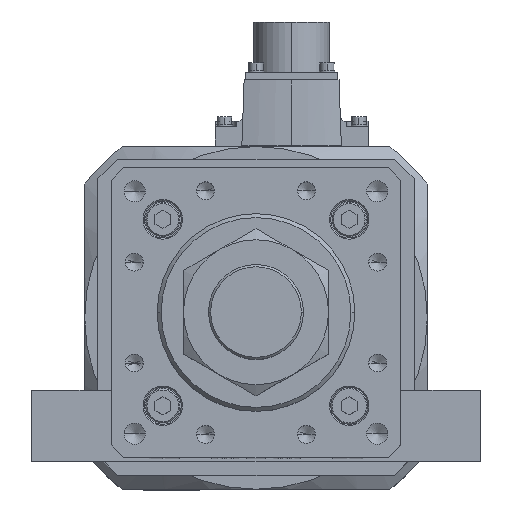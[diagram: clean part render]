
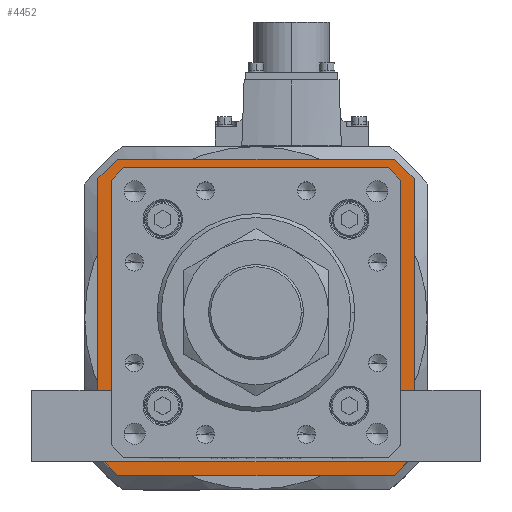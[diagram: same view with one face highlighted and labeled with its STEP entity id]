
A CAD part, top view. The second image highlights one B-rep face of the part: STEP entity #4452.
In plain terms, the highlighted planar face has unit normal (0, 0, 1).
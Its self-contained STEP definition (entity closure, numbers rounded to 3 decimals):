
#95 = LINE ( 'NONE', #4772, #30578 ) ;
#465 = LINE ( 'NONE', #25868, #29105 ) ;
#637 = DIRECTION ( 'NONE',  ( -1., 0., 0. ) ) ;
#719 = CARTESIAN_POINT ( 'NONE',  ( 53.5, -49.593, -119. ) ) ;
#970 = ORIENTED_EDGE ( 'NONE', *, *, #3680, .F. ) ;
#1253 = ORIENTED_EDGE ( 'NONE', *, *, #2673, .T. ) ;
#1300 = CARTESIAN_POINT ( 'NONE',  ( -60., 52.5, -119. ) ) ;
#1650 = LINE ( 'NONE', #37508, #6266 ) ;
#2039 = CARTESIAN_POINT ( 'NONE',  ( 49.446, -53.646, -119. ) ) ;
#2290 = CARTESIAN_POINT ( 'NONE',  ( 0., 0., -119. ) ) ;
#2322 = VERTEX_POINT ( 'NONE', #21210 ) ;
#2409 = PLANE ( 'NONE',  #12387 ) ;
#2529 = CARTESIAN_POINT ( 'NONE',  ( -53.5, -49.593, -119. ) ) ;
#2673 = EDGE_CURVE ( 'NONE', #22173, #32790, #23892, .T. ) ;
#2681 = LINE ( 'NONE', #26841, #12835 ) ;
#2816 = LINE ( 'NONE', #14696, #31970 ) ;
#3165 = CARTESIAN_POINT ( 'NONE',  ( 60., -52.5, -119. ) ) ;
#3339 = CARTESIAN_POINT ( 'NONE',  ( -49.8, -53.5, -119. ) ) ;
#3601 = CARTESIAN_POINT ( 'NONE',  ( -60., -52.5, -119. ) ) ;
#3680 = EDGE_CURVE ( 'NONE', #28744, #13534, #25666, .T. ) ;
#4452 = ADVANCED_FACE ( 'NONE', ( #24660, #28383 ), #2409, .T. ) ;
#4772 = CARTESIAN_POINT ( 'NONE',  ( -53.5, 49.8, -119. ) ) ;
#5198 = DIRECTION ( 'NONE',  ( 0., 1., 0. ) ) ;
#5269 = VECTOR ( 'NONE', #33253, 1000. ) ;
#5345 = LINE ( 'NONE', #2039, #29814 ) ;
#6266 = VECTOR ( 'NONE', #5198, 1000. ) ;
#6370 = CARTESIAN_POINT ( 'NONE',  ( 52.5, -60., -119. ) ) ;
#6378 = VECTOR ( 'NONE', #13907, 1000. ) ;
#6887 = LINE ( 'NONE', #13137, #18480 ) ;
#6957 = VECTOR ( 'NONE', #26576, 1000. ) ;
#7011 = EDGE_CURVE ( 'NONE', #2322, #22392, #6887, .T. ) ;
#7339 = CARTESIAN_POINT ( 'NONE',  ( 60., 52.5, -119. ) ) ;
#7496 = VERTEX_POINT ( 'NONE', #27701 ) ;
#7748 = DIRECTION ( 'NONE',  ( 0., 1., 0. ) ) ;
#7803 = EDGE_CURVE ( 'NONE', #33825, #28744, #8716, .T. ) ;
#8299 = CARTESIAN_POINT ( 'NONE',  ( -52.5, 60., -119. ) ) ;
#8507 = VECTOR ( 'NONE', #30615, 1000. ) ;
#8716 = LINE ( 'NONE', #26512, #36932 ) ;
#8774 = EDGE_CURVE ( 'NONE', #20878, #7496, #5345, .T. ) ;
#8915 = DIRECTION ( 'NONE',  ( -0.707, -0.707, 0. ) ) ;
#10215 = ORIENTED_EDGE ( 'NONE', *, *, #15297, .T. ) ;
#10273 = DIRECTION ( 'NONE',  ( 0.707, 0.707, 0. ) ) ;
#10594 = ORIENTED_EDGE ( 'NONE', *, *, #35888, .F. ) ;
#10843 = LINE ( 'NONE', #8299, #20073 ) ;
#10960 = DIRECTION ( 'NONE',  ( 1., 0., 0. ) ) ;
#11167 = VERTEX_POINT ( 'NONE', #34794 ) ;
#11280 = VERTEX_POINT ( 'NONE', #3601 ) ;
#11597 = EDGE_LOOP ( 'NONE', ( #10594, #21893, #32273, #36420, #970, #23785, #18874, #34530 ) ) ;
#11948 = LINE ( 'NONE', #24629, #6378 ) ;
#12387 = AXIS2_PLACEMENT_3D ( 'NONE', #2290, #22969, #10960 ) ;
#12710 = CARTESIAN_POINT ( 'NONE',  ( 53.5, -49.8, -119. ) ) ;
#12835 = VECTOR ( 'NONE', #20863, 1000. ) ;
#12951 = LINE ( 'NONE', #3339, #32372 ) ;
#13137 = CARTESIAN_POINT ( 'NONE',  ( -49.446, 53.646, -119. ) ) ;
#13534 = VERTEX_POINT ( 'NONE', #32369 ) ;
#13907 = DIRECTION ( 'NONE',  ( 1., 0., 0. ) ) ;
#14113 = CARTESIAN_POINT ( 'NONE',  ( -53.646, -49.446, -119. ) ) ;
#14696 = CARTESIAN_POINT ( 'NONE',  ( -52.5, -60., -119. ) ) ;
#15195 = EDGE_CURVE ( 'NONE', #13534, #11280, #2816, .T. ) ;
#15297 = EDGE_CURVE ( 'NONE', #22392, #36654, #29166, .T. ) ;
#15932 = LINE ( 'NONE', #12710, #5269 ) ;
#16399 = DIRECTION ( 'NONE',  ( -0.707, -0.707, 0. ) ) ;
#18202 = ORIENTED_EDGE ( 'NONE', *, *, #8774, .T. ) ;
#18355 = EDGE_CURVE ( 'NONE', #11280, #32036, #1650, .T. ) ;
#18480 = VECTOR ( 'NONE', #10273, 1000. ) ;
#18874 = ORIENTED_EDGE ( 'NONE', *, *, #22989, .F. ) ;
#18879 = CARTESIAN_POINT ( 'NONE',  ( 52.5, -60., -119. ) ) ;
#19421 = EDGE_LOOP ( 'NONE', ( #10215, #32812, #27403, #18202, #34251, #1253, #21699, #19586 ) ) ;
#19586 = ORIENTED_EDGE ( 'NONE', *, *, #7011, .T. ) ;
#20073 = VECTOR ( 'NONE', #31600, 1000. ) ;
#20863 = DIRECTION ( 'NONE',  ( 0., -1., 0. ) ) ;
#20878 = VERTEX_POINT ( 'NONE', #719 ) ;
#21077 = VERTEX_POINT ( 'NONE', #28227 ) ;
#21210 = CARTESIAN_POINT ( 'NONE',  ( -53.5, 49.593, -119. ) ) ;
#21686 = EDGE_CURVE ( 'NONE', #32790, #2322, #95, .T. ) ;
#21699 = ORIENTED_EDGE ( 'NONE', *, *, #21686, .T. ) ;
#21893 = ORIENTED_EDGE ( 'NONE', *, *, #38148, .F. ) ;
#22173 = VERTEX_POINT ( 'NONE', #31540 ) ;
#22392 = VERTEX_POINT ( 'NONE', #25845 ) ;
#22969 = DIRECTION ( 'NONE',  ( 0., 0., 1. ) ) ;
#22989 = EDGE_CURVE ( 'NONE', #25737, #33825, #2681, .T. ) ;
#23179 = CARTESIAN_POINT ( 'NONE',  ( 53.646, 49.446, -119. ) ) ;
#23300 = VECTOR ( 'NONE', #34423, 1000. ) ;
#23785 = ORIENTED_EDGE ( 'NONE', *, *, #7803, .F. ) ;
#23892 = LINE ( 'NONE', #14113, #25740 ) ;
#24629 = CARTESIAN_POINT ( 'NONE',  ( 52.5, 60., -119. ) ) ;
#24660 = FACE_BOUND ( 'NONE', #19421, .T. ) ;
#25666 = LINE ( 'NONE', #18879, #8507 ) ;
#25737 = VERTEX_POINT ( 'NONE', #7339 ) ;
#25740 = VECTOR ( 'NONE', #28955, 1000. ) ;
#25845 = CARTESIAN_POINT ( 'NONE',  ( -49.593, 53.5, -119. ) ) ;
#25868 = CARTESIAN_POINT ( 'NONE',  ( 60., 52.5, -119. ) ) ;
#26512 = CARTESIAN_POINT ( 'NONE',  ( 60., -52.5, -119. ) ) ;
#26576 = DIRECTION ( 'NONE',  ( 1., 0., 0. ) ) ;
#26841 = CARTESIAN_POINT ( 'NONE',  ( 60., 52.5, -119. ) ) ;
#27403 = ORIENTED_EDGE ( 'NONE', *, *, #33013, .T. ) ;
#27701 = CARTESIAN_POINT ( 'NONE',  ( 49.593, -53.5, -119. ) ) ;
#28227 = CARTESIAN_POINT ( 'NONE',  ( 53.5, 49.593, -119. ) ) ;
#28383 = FACE_OUTER_BOUND ( 'NONE', #11597, .T. ) ;
#28510 = VERTEX_POINT ( 'NONE', #31479 ) ;
#28744 = VERTEX_POINT ( 'NONE', #6370 ) ;
#28955 = DIRECTION ( 'NONE',  ( -0.707, 0.707, 0. ) ) ;
#29098 = EDGE_CURVE ( 'NONE', #11167, #25737, #465, .T. ) ;
#29105 = VECTOR ( 'NONE', #37491, 1000. ) ;
#29166 = LINE ( 'NONE', #32253, #6957 ) ;
#29518 = DIRECTION ( 'NONE',  ( -0.707, 0.707, 0. ) ) ;
#29814 = VECTOR ( 'NONE', #16399, 1000. ) ;
#30578 = VECTOR ( 'NONE', #7748, 1000. ) ;
#30615 = DIRECTION ( 'NONE',  ( -1., 0., 0. ) ) ;
#31158 = LINE ( 'NONE', #23179, #23300 ) ;
#31479 = CARTESIAN_POINT ( 'NONE',  ( -52.5, 60., -119. ) ) ;
#31540 = CARTESIAN_POINT ( 'NONE',  ( -49.593, -53.5, -119. ) ) ;
#31600 = DIRECTION ( 'NONE',  ( 0.707, 0.707, 0. ) ) ;
#31970 = VECTOR ( 'NONE', #29518, 1000. ) ;
#32036 = VERTEX_POINT ( 'NONE', #1300 ) ;
#32253 = CARTESIAN_POINT ( 'NONE',  ( 49.8, 53.5, -119. ) ) ;
#32273 = ORIENTED_EDGE ( 'NONE', *, *, #18355, .F. ) ;
#32369 = CARTESIAN_POINT ( 'NONE',  ( -52.5, -60., -119. ) ) ;
#32372 = VECTOR ( 'NONE', #637, 1000. ) ;
#32790 = VERTEX_POINT ( 'NONE', #2529 ) ;
#32812 = ORIENTED_EDGE ( 'NONE', *, *, #38045, .T. ) ;
#33013 = EDGE_CURVE ( 'NONE', #21077, #20878, #15932, .T. ) ;
#33253 = DIRECTION ( 'NONE',  ( 0., -1., 0. ) ) ;
#33825 = VERTEX_POINT ( 'NONE', #3165 ) ;
#34251 = ORIENTED_EDGE ( 'NONE', *, *, #35199, .T. ) ;
#34423 = DIRECTION ( 'NONE',  ( 0.707, -0.707, 0. ) ) ;
#34530 = ORIENTED_EDGE ( 'NONE', *, *, #29098, .F. ) ;
#34794 = CARTESIAN_POINT ( 'NONE',  ( 52.5, 60., -119. ) ) ;
#35199 = EDGE_CURVE ( 'NONE', #7496, #22173, #12951, .T. ) ;
#35803 = CARTESIAN_POINT ( 'NONE',  ( 49.593, 53.5, -119. ) ) ;
#35888 = EDGE_CURVE ( 'NONE', #28510, #11167, #11948, .T. ) ;
#36420 = ORIENTED_EDGE ( 'NONE', *, *, #15195, .F. ) ;
#36654 = VERTEX_POINT ( 'NONE', #35803 ) ;
#36932 = VECTOR ( 'NONE', #8915, 1000. ) ;
#37491 = DIRECTION ( 'NONE',  ( 0.707, -0.707, 0. ) ) ;
#37508 = CARTESIAN_POINT ( 'NONE',  ( -60., 52.5, -119. ) ) ;
#38045 = EDGE_CURVE ( 'NONE', #36654, #21077, #31158, .T. ) ;
#38148 = EDGE_CURVE ( 'NONE', #32036, #28510, #10843, .T. ) ;
